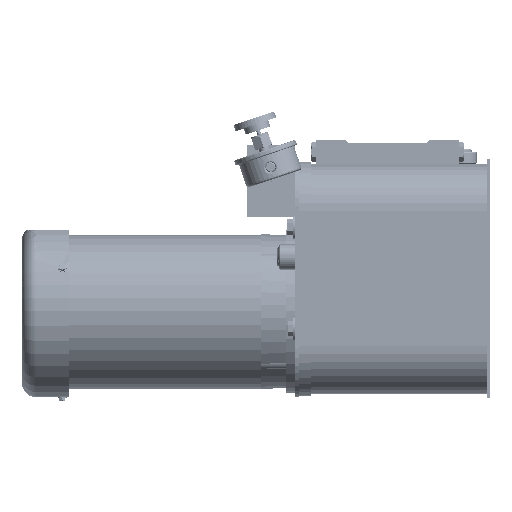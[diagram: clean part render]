
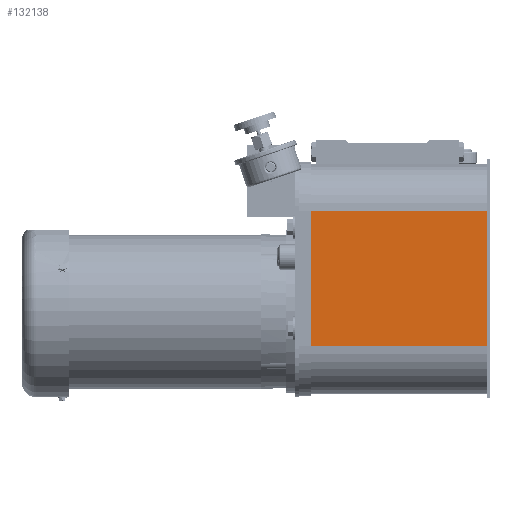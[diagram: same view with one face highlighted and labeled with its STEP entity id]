
A CAD part, top view. The second image highlights one B-rep face of the part: STEP entity #132138.
In plain terms, the highlighted planar face has unit normal (0, 0, 1).
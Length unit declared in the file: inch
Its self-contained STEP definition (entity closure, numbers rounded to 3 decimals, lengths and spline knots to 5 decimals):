
#5982 = DIRECTION ( 'NONE',  ( 0., 0., 1. ) ) ;
#23963 = VECTOR ( 'NONE', #155846, 39.37008 ) ;
#30722 = ORIENTED_EDGE ( 'NONE', *, *, #253461, .T. ) ;
#38172 = CARTESIAN_POINT ( 'NONE',  ( 4.47645, 5.52589, 15.4593 ) ) ;
#46624 = LINE ( 'NONE', #457970, #223295 ) ;
#61757 = LINE ( 'NONE', #128440, #476037 ) ;
#81888 = CARTESIAN_POINT ( 'NONE',  ( 4.47645, 11.15089, 15.4593 ) ) ;
#114393 = ORIENTED_EDGE ( 'NONE', *, *, #472549, .F. ) ;
#128440 = CARTESIAN_POINT ( 'NONE',  ( 4.47645, 5.52589, 15.4593 ) ) ;
#132138 = ADVANCED_FACE ( 'NONE', ( #186091 ), #375722, .T. ) ;
#155846 = DIRECTION ( 'NONE',  ( 1., 0., 0. ) ) ;
#174934 = EDGE_CURVE ( 'NONE', #184452, #302458, #46624, .T. ) ;
#184452 = VERTEX_POINT ( 'NONE', #193096 ) ;
#186091 = FACE_OUTER_BOUND ( 'NONE', #430965, .T. ) ;
#193096 = CARTESIAN_POINT ( 'NONE',  ( 12.35685, 5.52589, 15.4593 ) ) ;
#196580 = CARTESIAN_POINT ( 'NONE',  ( 4.60145, 5.52589, 15.4593 ) ) ;
#199024 = DIRECTION ( 'NONE',  ( 0., 1., 0. ) ) ;
#203786 = VERTEX_POINT ( 'NONE', #315875 ) ;
#221809 = VERTEX_POINT ( 'NONE', #422108 ) ;
#223295 = VECTOR ( 'NONE', #347227, 39.37008 ) ;
#232260 = LINE ( 'NONE', #81888, #23963 ) ;
#250623 = ORIENTED_EDGE ( 'NONE', *, *, #376435, .F. ) ;
#253461 = EDGE_CURVE ( 'NONE', #203786, #184452, #61757, .T. ) ;
#300357 = AXIS2_PLACEMENT_3D ( 'NONE', #38172, #5982, #410235 ) ;
#302458 = VERTEX_POINT ( 'NONE', #439723 ) ;
#305064 = LINE ( 'NONE', #196580, #475905 ) ;
#315875 = CARTESIAN_POINT ( 'NONE',  ( 4.60145, 5.52589, 15.4593 ) ) ;
#320525 = DIRECTION ( 'NONE',  ( 1., 0., 0. ) ) ;
#330903 = ORIENTED_EDGE ( 'NONE', *, *, #174934, .T. ) ;
#347227 = DIRECTION ( 'NONE',  ( 0., 1., 0. ) ) ;
#375722 = PLANE ( 'NONE',  #300357 ) ;
#376435 = EDGE_CURVE ( 'NONE', #203786, #221809, #305064, .T. ) ;
#410235 = DIRECTION ( 'NONE',  ( 0., 1., 0. ) ) ;
#422108 = CARTESIAN_POINT ( 'NONE',  ( 4.60145, 11.15089, 15.4593 ) ) ;
#430965 = EDGE_LOOP ( 'NONE', ( #114393, #250623, #30722, #330903 ) ) ;
#439723 = CARTESIAN_POINT ( 'NONE',  ( 12.35685, 11.15089, 15.4593 ) ) ;
#457970 = CARTESIAN_POINT ( 'NONE',  ( 12.35685, 13.33839, 15.4593 ) ) ;
#472549 = EDGE_CURVE ( 'NONE', #221809, #302458, #232260, .T. ) ;
#475905 = VECTOR ( 'NONE', #199024, 39.37008 ) ;
#476037 = VECTOR ( 'NONE', #320525, 39.37008 ) ;
